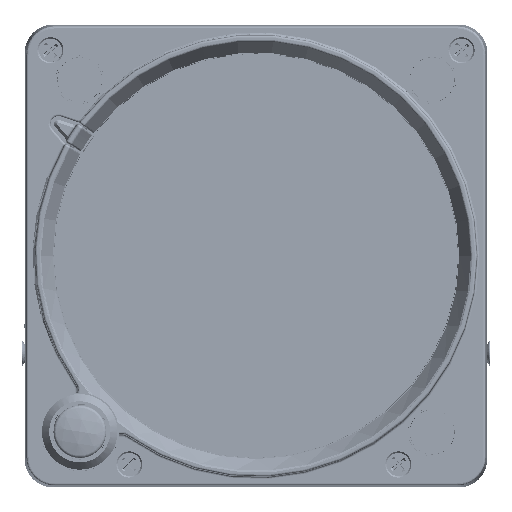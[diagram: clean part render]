
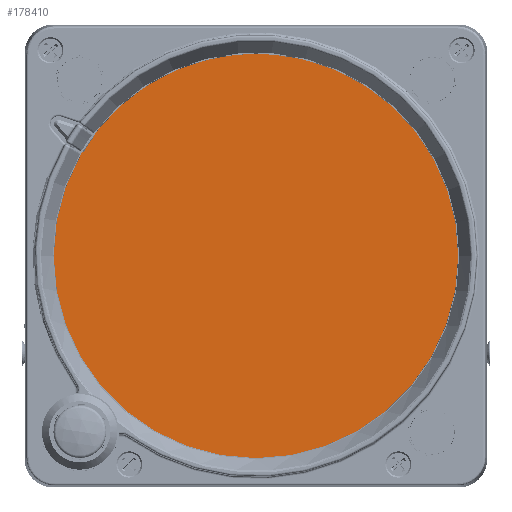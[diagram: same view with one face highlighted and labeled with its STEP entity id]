
A CAD part, top view. The second image highlights one B-rep face of the part: STEP entity #178410.
In plain terms, the highlighted planar face has unit normal (0, 0, 1).
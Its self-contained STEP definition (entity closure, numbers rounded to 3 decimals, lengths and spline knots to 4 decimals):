
#11135 = PLANE ( 'NONE',  #170352 ) ;
#33925 = CARTESIAN_POINT ( 'NONE',  ( 0., 0., 0.7895 ) ) ;
#54228 = AXIS2_PLACEMENT_3D ( 'NONE', #242736, #188183, #132006 ) ;
#64930 = FACE_OUTER_BOUND ( 'NONE', #238416, .T. ) ;
#68987 = DIRECTION ( 'NONE',  ( 1., 0., 0. ) ) ;
#70351 = DIRECTION ( 'NONE',  ( 0., 0., 1. ) ) ;
#72198 = VERTEX_POINT ( 'NONE', #239033 ) ;
#83105 = CARTESIAN_POINT ( 'NONE',  ( 1.4226, 0., 0.7895 ) ) ;
#87707 = DIRECTION ( 'NONE',  ( 1., 0., 0. ) ) ;
#87960 = CARTESIAN_POINT ( 'NONE',  ( 0., 0., 0.7895 ) ) ;
#90323 = AXIS2_PLACEMENT_3D ( 'NONE', #33925, #70351, #87707 ) ;
#101380 = EDGE_CURVE ( 'NONE', #72198, #207864, #227091, .T. ) ;
#132006 = DIRECTION ( 'NONE',  ( 1., 0., 0. ) ) ;
#170352 = AXIS2_PLACEMENT_3D ( 'NONE', #87960, #236765, #68987 ) ;
#178410 = ADVANCED_FACE ( 'NONE', ( #64930 ), #11135, .T. ) ;
#188183 = DIRECTION ( 'NONE',  ( 0., 0., 1. ) ) ;
#207864 = VERTEX_POINT ( 'NONE', #83105 ) ;
#208413 = ORIENTED_EDGE ( 'NONE', *, *, #101380, .T. ) ;
#212729 = CIRCLE ( 'NONE', #90323, 1.4226 ) ;
#227091 = CIRCLE ( 'NONE', #54228, 1.4226 ) ;
#231778 = ORIENTED_EDGE ( 'NONE', *, *, #240565, .T. ) ;
#236765 = DIRECTION ( 'NONE',  ( 0., 0., 1. ) ) ;
#238416 = EDGE_LOOP ( 'NONE', ( #231778, #208413 ) ) ;
#239033 = CARTESIAN_POINT ( 'NONE',  ( -1.4226, 0., 0.7895 ) ) ;
#240565 = EDGE_CURVE ( 'NONE', #207864, #72198, #212729, .T. ) ;
#242736 = CARTESIAN_POINT ( 'NONE',  ( 0., 0., 0.7895 ) ) ;
